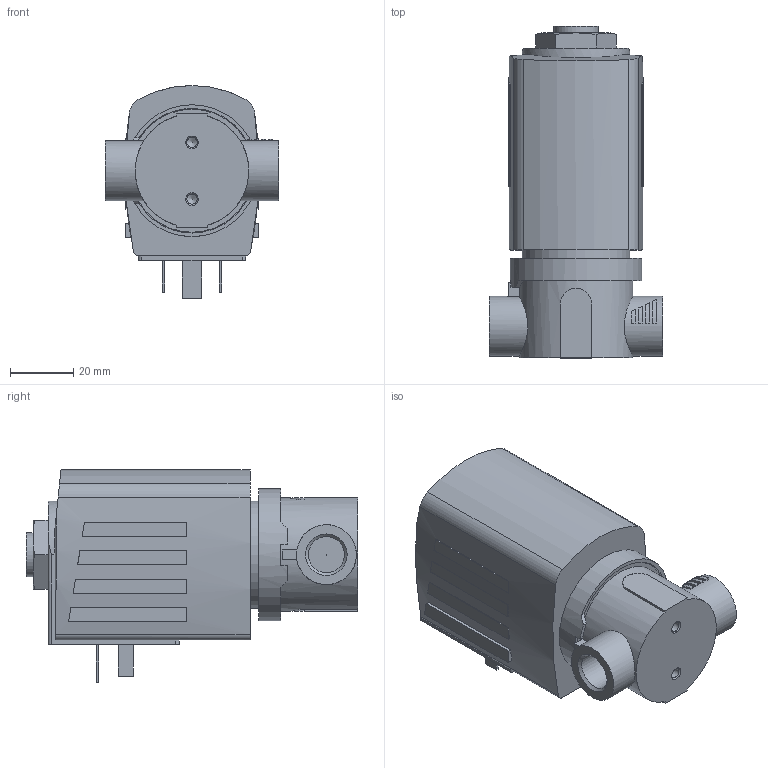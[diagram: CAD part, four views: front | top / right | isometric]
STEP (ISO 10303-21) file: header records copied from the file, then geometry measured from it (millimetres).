
FILE_DESCRIPTION(/* description */ ('STEP AP214'),/* implementation_level */ '2;1');
FILE_NAME(/* name */ '6240-367946-2_2-way_solenoid_valve__pilot-controlled',/* time_stamp */ '2024-05-10T11:22:28+02:00',/* author */ ('License CC BY-ND 4.0'),/* organization */ ('CADENAS'),/* preprocessor_version */ 'ST-DEVELOPER v19.3',/* originating_system */ 'PARTsolutions',/* authorisation */ ' ');
FILE_SCHEMA (('AUTOMOTIVE_DESIGN {1 0 10303 214 3 1 1}'));
Length unit declared in the file: millimetre
Products named in the file (3): 6240-367946-2/2-way solenoid valve, pilot-controlled; 6240-Gehaeuse-2/2-Wege-Magnetventil, vorgesteuert MX31G1/46VA; AC10ex-42SG=k-Plan-Coil
Assembly tree (2 placements, depth 2):
  6240-367946-2/2-way solenoid valve, pilot-controlled
    6240-Gehaeuse-2/2-Wege-Magnetventil, vorgesteuert MX31G1/46VA
    AC10ex-42SG=k-Plan-Coil
Bounding box: 55 x 105.2 x 67.5 mm (x, y, z)
Volume: 178177.9 mm3; surface area: 27179.8 mm2
Topology: 2 solids, 2 shells, 164 faces, 393 edges, 258 vertices
Faces by surface type: plane 117, cylinder 34, cone 13
Full cylindrical faces by diameter (mm): 0.2 x1, 2.013 x1, 3.242 x2, 11.445 x2, 14 x1, 19 x2, 34 x1, 36 x1, 39 x1, 39.5 x1, 41.8 x1
Entity records: 5861 total; most frequent: CARTESIAN_POINT 887, DIRECTION 795, ORIENTED_EDGE 726, EDGE_CURVE 363, AXIS2_PLACEMENT_3D 287, VERTEX_POINT 251, LINE 221, VECTOR 221
